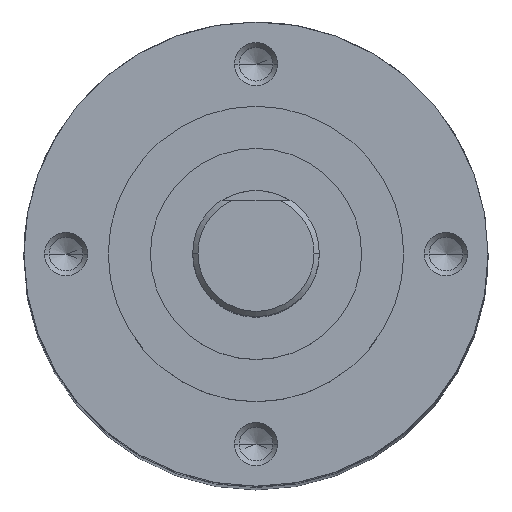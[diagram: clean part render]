
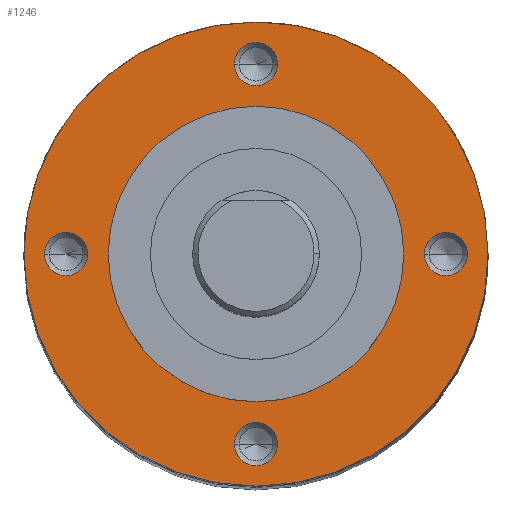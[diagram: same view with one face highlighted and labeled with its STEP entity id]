
A CAD part, top view. The second image highlights one B-rep face of the part: STEP entity #1246.
In plain terms, the highlighted planar face has unit normal (0, 0, 1).
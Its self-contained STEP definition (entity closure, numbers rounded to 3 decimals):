
#956 = CARTESIAN_POINT ( 'NONE',  ( 1.025, 9., 33.5 ) ) ;
#959 = CIRCLE ( 'NONE', #977, 1.025 ) ;
#975 = DIRECTION ( 'NONE',  ( 1., 0., 0. ) ) ;
#976 = DIRECTION ( 'NONE',  ( 0., 0., 1. ) ) ;
#977 = AXIS2_PLACEMENT_3D ( 'NONE', #994, #976, #975 ) ;
#994 = CARTESIAN_POINT ( 'NONE',  ( 0., 9., 33.5 ) ) ;
#1031 = CARTESIAN_POINT ( 'NONE',  ( -9., 0., 33.5 ) ) ;
#1032 = CARTESIAN_POINT ( 'NONE',  ( -7.975, 0., 33.5 ) ) ;
#1033 = DIRECTION ( 'NONE',  ( 0., 0., 1. ) ) ;
#1038 = CIRCLE ( 'NONE', #1049, 1.025 ) ;
#1041 = DIRECTION ( 'NONE',  ( 1., 0., 0. ) ) ;
#1049 = AXIS2_PLACEMENT_3D ( 'NONE', #1031, #1033, #1041 ) ;
#1100 = CARTESIAN_POINT ( 'NONE',  ( -1.025, -9., 33.5 ) ) ;
#1126 = CARTESIAN_POINT ( 'NONE',  ( -10.025, 0., 33.5 ) ) ;
#1154 = VERTEX_POINT ( 'NONE', #2942 ) ;
#1158 = EDGE_CURVE ( 'NONE', #2324, #1186, #2908, .T. ) ;
#1185 = EDGE_CURVE ( 'NONE', #1188, #1154, #3061, .T. ) ;
#1186 = VERTEX_POINT ( 'NONE', #3099 ) ;
#1188 = VERTEX_POINT ( 'NONE', #3132 ) ;
#1195 = EDGE_CURVE ( 'NONE', #2713, #2812, #3175, .T. ) ;
#1198 = ORIENTED_EDGE ( 'NONE', *, *, #6577, .F. ) ;
#1202 = ORIENTED_EDGE ( 'NONE', *, *, #1392, .F. ) ;
#1203 = ORIENTED_EDGE ( 'NONE', *, *, #1185, .F. ) ;
#1204 = ORIENTED_EDGE ( 'NONE', *, *, #2714, .F. ) ;
#1205 = EDGE_CURVE ( 'NONE', #1154, #1188, #3162, .T. ) ;
#1206 = EDGE_LOOP ( 'NONE', ( #1224, #1396 ) ) ;
#1207 = ORIENTED_EDGE ( 'NONE', *, *, #1238, .F. ) ;
#1209 = EDGE_CURVE ( 'NONE', #6547, #6574, #3174, .T. ) ;
#1210 = ORIENTED_EDGE ( 'NONE', *, *, #6528, .T. ) ;
#1211 = EDGE_LOOP ( 'NONE', ( #1247, #1204 ) ) ;
#1219 = ORIENTED_EDGE ( 'NONE', *, *, #1205, .F. ) ;
#1224 = ORIENTED_EDGE ( 'NONE', *, *, #1371, .F. ) ;
#1238 = EDGE_CURVE ( 'NONE', #6555, #6575, #3244, .T. ) ;
#1241 = EDGE_LOOP ( 'NONE', ( #1219, #1203 ) ) ;
#1245 = EDGE_LOOP ( 'NONE', ( #1202, #1393 ) ) ;
#1246 = ADVANCED_FACE ( 'NONE', ( #3299, #3284, #3313, #3312, #3302, #3317 ), #3276, .T. ) ;
#1247 = ORIENTED_EDGE ( 'NONE', *, *, #1195, .F. ) ;
#1368 = EDGE_LOOP ( 'NONE', ( #1207, #1198 ) ) ;
#1371 = EDGE_CURVE ( 'NONE', #2286, #2332, #3287, .T. ) ;
#1374 = EDGE_LOOP ( 'NONE', ( #1400, #1210 ) ) ;
#1392 = EDGE_CURVE ( 'NONE', #1186, #2324, #3354, .T. ) ;
#1393 = ORIENTED_EDGE ( 'NONE', *, *, #1158, .F. ) ;
#1396 = ORIENTED_EDGE ( 'NONE', *, *, #2287, .F. ) ;
#1400 = ORIENTED_EDGE ( 'NONE', *, *, #1209, .T. ) ;
#1592 = CARTESIAN_POINT ( 'NONE',  ( -1.025, 9., 33.5 ) ) ;
#2286 = VERTEX_POINT ( 'NONE', #1032 ) ;
#2287 = EDGE_CURVE ( 'NONE', #2332, #2286, #1038, .T. ) ;
#2324 = VERTEX_POINT ( 'NONE', #1100 ) ;
#2332 = VERTEX_POINT ( 'NONE', #1126 ) ;
#2713 = VERTEX_POINT ( 'NONE', #956 ) ;
#2714 = EDGE_CURVE ( 'NONE', #2812, #2713, #959, .T. ) ;
#2812 = VERTEX_POINT ( 'NONE', #1592 ) ;
#2908 = CIRCLE ( 'NONE', #2926, 1.025 ) ;
#2909 = DIRECTION ( 'NONE',  ( 0., 0., 1. ) ) ;
#2926 = AXIS2_PLACEMENT_3D ( 'NONE', #2946, #2909, #2945 ) ;
#2942 = CARTESIAN_POINT ( 'NONE',  ( 10.025, 0., 33.5 ) ) ;
#2945 = DIRECTION ( 'NONE',  ( 1., 0., 0. ) ) ;
#2946 = CARTESIAN_POINT ( 'NONE',  ( 0., -9., 33.5 ) ) ;
#3042 = AXIS2_PLACEMENT_3D ( 'NONE', #3076, #3088, #3087 ) ;
#3061 = CIRCLE ( 'NONE', #3042, 1.025 ) ;
#3076 = CARTESIAN_POINT ( 'NONE',  ( 9., 0., 33.5 ) ) ;
#3087 = DIRECTION ( 'NONE',  ( 1., 0., 0. ) ) ;
#3088 = DIRECTION ( 'NONE',  ( 0., 0., 1. ) ) ;
#3099 = CARTESIAN_POINT ( 'NONE',  ( 1.025, -9., 33.5 ) ) ;
#3132 = CARTESIAN_POINT ( 'NONE',  ( 7.975, 0., 33.5 ) ) ;
#3157 = DIRECTION ( 'NONE',  ( 1., 0., 0. ) ) ;
#3158 = DIRECTION ( 'NONE',  ( 0., 0., 1. ) ) ;
#3160 = CARTESIAN_POINT ( 'NONE',  ( 9., 0., 33.5 ) ) ;
#3161 = AXIS2_PLACEMENT_3D ( 'NONE', #3160, #3216, #3215 ) ;
#3162 = CIRCLE ( 'NONE', #3161, 1.025 ) ;
#3174 = CIRCLE ( 'NONE', #3179, 10.995 ) ;
#3175 = CIRCLE ( 'NONE', #3227, 1.025 ) ;
#3179 = AXIS2_PLACEMENT_3D ( 'NONE', #3210, #3158, #3157 ) ;
#3208 = CARTESIAN_POINT ( 'NONE',  ( 0., 9., 33.5 ) ) ;
#3210 = CARTESIAN_POINT ( 'NONE',  ( 0., 0., 33.5 ) ) ;
#3211 = DIRECTION ( 'NONE',  ( 0., 0., 1. ) ) ;
#3215 = DIRECTION ( 'NONE',  ( 1., 0., 0. ) ) ;
#3216 = DIRECTION ( 'NONE',  ( 0., 0., 1. ) ) ;
#3224 = DIRECTION ( 'NONE',  ( 1., 0., 0. ) ) ;
#3227 = AXIS2_PLACEMENT_3D ( 'NONE', #3208, #3211, #3224 ) ;
#3239 = DIRECTION ( 'NONE',  ( 1., 0., 0. ) ) ;
#3240 = DIRECTION ( 'NONE',  ( 0., 0., 1. ) ) ;
#3241 = AXIS2_PLACEMENT_3D ( 'NONE', #3265, #3240, #3239 ) ;
#3244 = CIRCLE ( 'NONE', #3298, 7. ) ;
#3248 = CARTESIAN_POINT ( 'NONE',  ( 0., 0., 33.5 ) ) ;
#3256 = DIRECTION ( 'NONE',  ( 1., 0., 0. ) ) ;
#3257 = DIRECTION ( 'NONE',  ( 0., 0., 1. ) ) ;
#3258 = CARTESIAN_POINT ( 'NONE',  ( 0., 0., 33.5 ) ) ;
#3265 = CARTESIAN_POINT ( 'NONE',  ( -9., 0., 33.5 ) ) ;
#3276 = PLANE ( 'NONE',  #3304 ) ;
#3284 = FACE_BOUND ( 'NONE', #1241, .T. ) ;
#3287 = CIRCLE ( 'NONE', #3241, 1.025 ) ;
#3298 = AXIS2_PLACEMENT_3D ( 'NONE', #3248, #3301, #3300 ) ;
#3299 = FACE_BOUND ( 'NONE', #1211, .T. ) ;
#3300 = DIRECTION ( 'NONE',  ( 1., 0., 0. ) ) ;
#3301 = DIRECTION ( 'NONE',  ( 0., 0., 1. ) ) ;
#3302 = FACE_OUTER_BOUND ( 'NONE', #1374, .T. ) ;
#3304 = AXIS2_PLACEMENT_3D ( 'NONE', #3258, #3257, #3256 ) ;
#3312 = FACE_BOUND ( 'NONE', #1206, .T. ) ;
#3313 = FACE_BOUND ( 'NONE', #1245, .T. ) ;
#3317 = FACE_BOUND ( 'NONE', #1368, .T. ) ;
#3344 = DIRECTION ( 'NONE',  ( 1., 0., 0. ) ) ;
#3345 = DIRECTION ( 'NONE',  ( 0., 0., 1. ) ) ;
#3346 = AXIS2_PLACEMENT_3D ( 'NONE', #3353, #3345, #3344 ) ;
#3353 = CARTESIAN_POINT ( 'NONE',  ( 0., -9., 33.5 ) ) ;
#3354 = CIRCLE ( 'NONE', #3346, 1.025 ) ;
#4776 = CARTESIAN_POINT ( 'NONE',  ( 0., 0., 33.5 ) ) ;
#4789 = AXIS2_PLACEMENT_3D ( 'NONE', #4776, #4813, #4819 ) ;
#4813 = DIRECTION ( 'NONE',  ( 0., 0., 1. ) ) ;
#4814 = CIRCLE ( 'NONE', #4789, 10.995 ) ;
#4818 = CARTESIAN_POINT ( 'NONE',  ( -10.995, 0., 33.5 ) ) ;
#4819 = DIRECTION ( 'NONE',  ( 1., 0., 0. ) ) ;
#6254 = CARTESIAN_POINT ( 'NONE',  ( 10.995, 0., 33.5 ) ) ;
#6255 = AXIS2_PLACEMENT_3D ( 'NONE', #6280, #6279, #6278 ) ;
#6271 = CARTESIAN_POINT ( 'NONE',  ( 7., 0., 33.5 ) ) ;
#6278 = DIRECTION ( 'NONE',  ( 1., 0., 0. ) ) ;
#6279 = DIRECTION ( 'NONE',  ( 0., 0., 1. ) ) ;
#6280 = CARTESIAN_POINT ( 'NONE',  ( 0., 0., 33.5 ) ) ;
#6281 = CIRCLE ( 'NONE', #6255, 7. ) ;
#6528 = EDGE_CURVE ( 'NONE', #6574, #6547, #4814, .T. ) ;
#6547 = VERTEX_POINT ( 'NONE', #4818 ) ;
#6555 = VERTEX_POINT ( 'NONE', #6945 ) ;
#6574 = VERTEX_POINT ( 'NONE', #6254 ) ;
#6575 = VERTEX_POINT ( 'NONE', #6271 ) ;
#6577 = EDGE_CURVE ( 'NONE', #6575, #6555, #6281, .T. ) ;
#6945 = CARTESIAN_POINT ( 'NONE',  ( -7., 0., 33.5 ) ) ;
